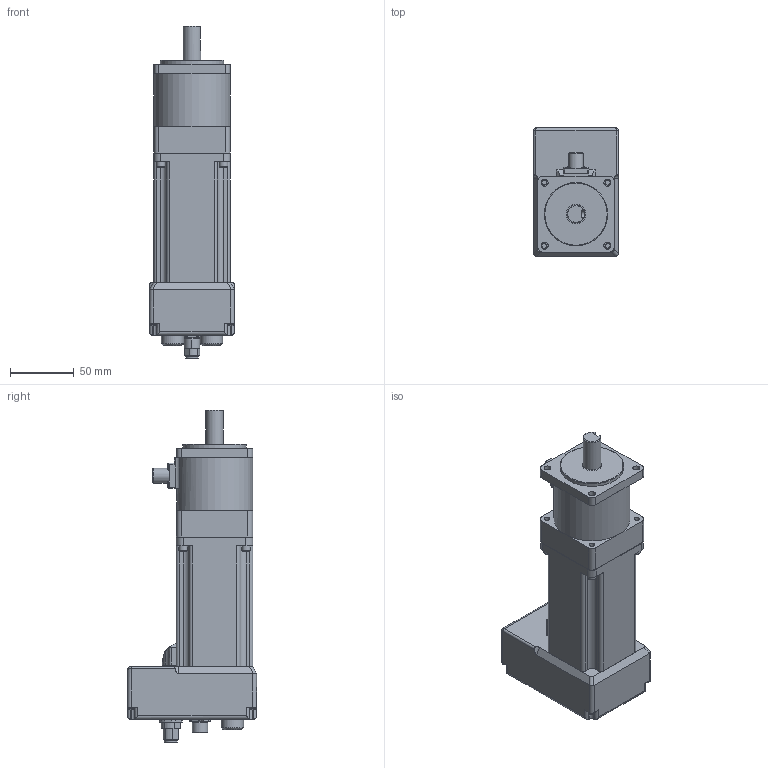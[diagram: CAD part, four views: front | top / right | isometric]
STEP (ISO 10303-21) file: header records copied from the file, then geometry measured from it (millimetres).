
FILE_DESCRIPTION(/* description */ ('Alibre Inc.'),/* implementation_level */ '2;1');
FILE_NAME(/* name */ 'export-67A5C265-B99E-4674-8BBB-59F665A31668',/* time_stamp */ '2022-10-25T14:22:54-04:00',/* author */ (''),/* organization */ (''),/* preprocessor_version */ 'ST-DEVELOPER v17',/* originating_system */ 'Alibre',/* authorisation */ '');
FILE_SCHEMA (('CONFIG_CONTROL_DESIGN'));
Length unit declared in the file: millimetre
Bounding box: 66.8 x 101.6 x 261.39 mm (x, y, z)
Volume: 814048.1 mm3; surface area: 91612.3 mm2
Topology: 2 solids, 32 shells, 851 faces, 2021 edges, 1310 vertices
Faces by surface type: plane 371, cylinder 284, bspline 99, torus 46, cone 35, sphere 10, revolution 6
Full cylindrical faces by diameter (mm): 0.625 x1, 0.8 x4, 1.1 x8, 1.5 x2, 2.5 x4, 2.87 x6, 3 x18, 3.264 x4, 4 x4, 4.166 x4, 5.44 x6, 5.5 x12, 5.588 x2, 6.858 x4, 7.62 x2, 8 x1, 8.4 x1, 11.176 x2, 11.8 x1, 14 x2, 15 x1, 15.5 x1, 17.78 x2, 18 x1, 19.05 x1, 42 x1, 50 x2, 60 x1
Entity records: 24952 total; most frequent: CARTESIAN_POINT 6992, ORIENTED_EDGE 3632, DIRECTION 3220, EDGE_CURVE 1816, AXIS2_PLACEMENT_3D 1367, VERTEX_POINT 1251, EDGE_LOOP 1115, FACE_BOUND 1115
